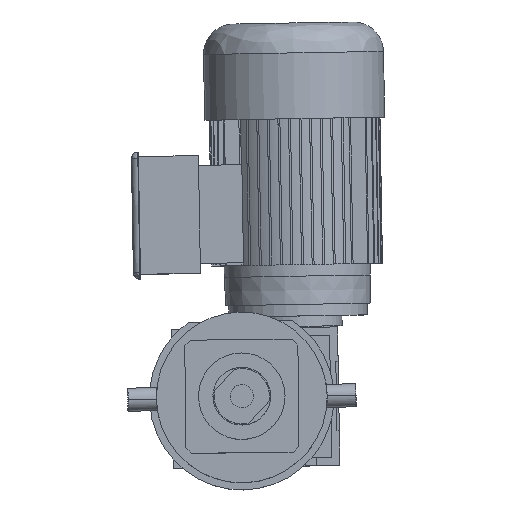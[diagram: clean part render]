
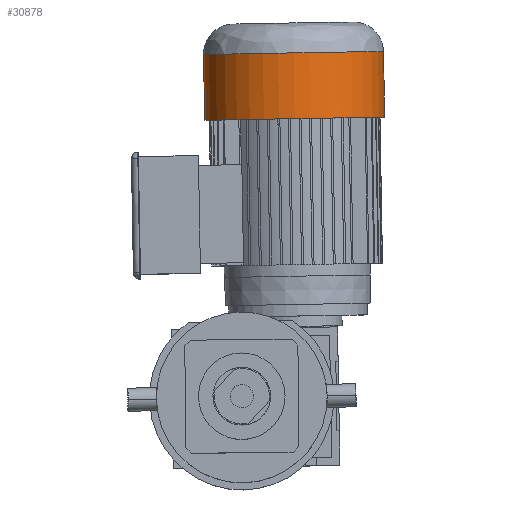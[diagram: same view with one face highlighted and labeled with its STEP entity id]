
A CAD part, top view. The second image highlights one B-rep face of the part: STEP entity #30878.
In plain terms, the highlighted cylindrical face has radius 78 mm (diameter 156 mm), a partial arc.
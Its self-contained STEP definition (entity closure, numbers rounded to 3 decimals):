
#2916 = CYLINDRICAL_SURFACE ( 'NONE', #32968, 78. ) ;
#3527 = DIRECTION ( 'NONE',  ( 0., 0., -1. ) ) ;
#6948 = VERTEX_POINT ( 'NONE', #35743 ) ;
#7316 = ORIENTED_EDGE ( 'NONE', *, *, #30655, .F. ) ;
#7393 = AXIS2_PLACEMENT_3D ( 'NONE', #8198, #28459, #11130 ) ;
#8198 = CARTESIAN_POINT ( 'NONE',  ( 0., 0., -183.5 ) ) ;
#10466 = VERTEX_POINT ( 'NONE', #24589 ) ;
#10992 = DIRECTION ( 'NONE',  ( 0., 0., -1. ) ) ;
#11130 = DIRECTION ( 'NONE',  ( 0., 1., 0. ) ) ;
#11260 = EDGE_CURVE ( 'NONE', #32488, #11423, #34151, .T. ) ;
#11423 = VERTEX_POINT ( 'NONE', #29315 ) ;
#13312 = FACE_OUTER_BOUND ( 'NONE', #21242, .T. ) ;
#14006 = CARTESIAN_POINT ( 'NONE',  ( 0., 0., -126.5 ) ) ;
#15225 = CARTESIAN_POINT ( 'NONE',  ( 0., 78., -126.5 ) ) ;
#16976 = DIRECTION ( 'NONE',  ( 0., 1., 0. ) ) ;
#17336 = ORIENTED_EDGE ( 'NONE', *, *, #11260, .T. ) ;
#17852 = CARTESIAN_POINT ( 'NONE',  ( 0., 0., -209.5 ) ) ;
#18072 = DIRECTION ( 'NONE',  ( 0., 0., -1. ) ) ;
#18086 = DIRECTION ( 'NONE',  ( 0., 1., 0. ) ) ;
#18925 = VECTOR ( 'NONE', #18072, 1000. ) ;
#18932 = ORIENTED_EDGE ( 'NONE', *, *, #36443, .T. ) ;
#21242 = EDGE_LOOP ( 'NONE', ( #17336, #18932, #24705, #7316 ) ) ;
#24171 = EDGE_CURVE ( 'NONE', #6948, #10466, #31396, .T. ) ;
#24589 = CARTESIAN_POINT ( 'NONE',  ( 0., 78., -183.5 ) ) ;
#24663 = VECTOR ( 'NONE', #10992, 1000. ) ;
#24705 = ORIENTED_EDGE ( 'NONE', *, *, #24171, .T. ) ;
#28459 = DIRECTION ( 'NONE',  ( 0., 0., 1. ) ) ;
#29315 = CARTESIAN_POINT ( 'NONE',  ( 0., -78., -126.5 ) ) ;
#30655 = EDGE_CURVE ( 'NONE', #32488, #10466, #33251, .T. ) ;
#30681 = AXIS2_PLACEMENT_3D ( 'NONE', #14006, #34237, #16976 ) ;
#30878 = ADVANCED_FACE ( 'NONE', ( #13312 ), #2916, .T. ) ;
#31396 = CIRCLE ( 'NONE', #7393, 78. ) ;
#32488 = VERTEX_POINT ( 'NONE', #15225 ) ;
#32968 = AXIS2_PLACEMENT_3D ( 'NONE', #17852, #3527, #18086 ) ;
#33251 = LINE ( 'NONE', #34103, #24663 ) ;
#34103 = CARTESIAN_POINT ( 'NONE',  ( 0., 78., -209.5 ) ) ;
#34151 = CIRCLE ( 'NONE', #30681, 78. ) ;
#34237 = DIRECTION ( 'NONE',  ( 0., 0., -1. ) ) ;
#34242 = LINE ( 'NONE', #35330, #18925 ) ;
#35330 = CARTESIAN_POINT ( 'NONE',  ( 0., -78., -209.5 ) ) ;
#35743 = CARTESIAN_POINT ( 'NONE',  ( 0., -78., -183.5 ) ) ;
#36443 = EDGE_CURVE ( 'NONE', #11423, #6948, #34242, .T. ) ;
